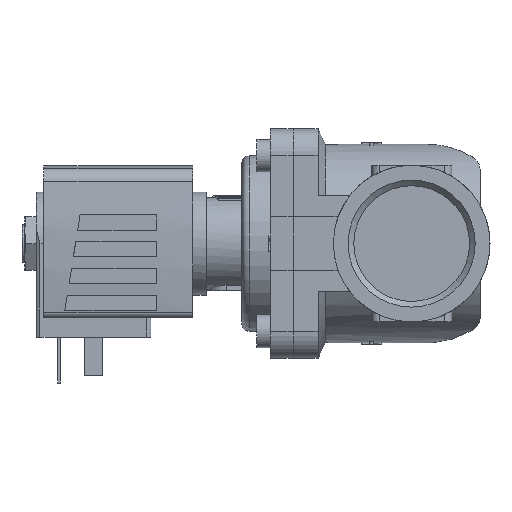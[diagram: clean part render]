
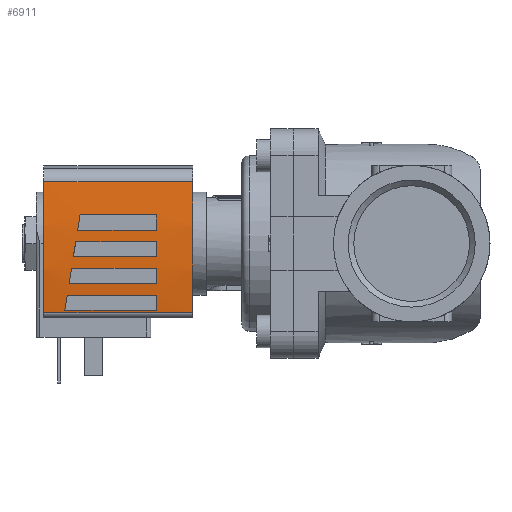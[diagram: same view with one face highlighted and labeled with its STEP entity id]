
A CAD part, left-side view. The second image highlights one B-rep face of the part: STEP entity #6911.
In plain terms, the highlighted cylindrical face has radius 130 mm (diameter 260 mm), a partial arc.
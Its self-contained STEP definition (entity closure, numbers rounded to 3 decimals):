
#92=ELLIPSE('',#7480,131.653,130.);
#93=ELLIPSE('',#7482,131.653,130.);
#94=ELLIPSE('',#7485,131.653,130.);
#95=ELLIPSE('',#7487,131.653,130.);
#247=CYLINDRICAL_SURFACE('',#7479,130.);
#636=LINE('',#10854,#1136);
#638=LINE('',#10874,#1138);
#639=LINE('',#10878,#1139);
#640=LINE('',#10879,#1140);
#641=LINE('',#10884,#1141);
#642=LINE('',#10889,#1142);
#643=LINE('',#10893,#1143);
#644=LINE('',#10897,#1144);
#645=LINE('',#10901,#1145);
#646=LINE('',#10905,#1146);
#1136=VECTOR('',#8895,1000.);
#1138=VECTOR('',#8917,1000.);
#1139=VECTOR('',#8920,1000.);
#1140=VECTOR('',#8921,1000.);
#1141=VECTOR('',#8924,1000.);
#1142=VECTOR('',#8929,1000.);
#1143=VECTOR('',#8932,1000.);
#1144=VECTOR('',#8935,1000.);
#1145=VECTOR('',#8938,1000.);
#1146=VECTOR('',#8941,1000.);
#2524=ORIENTED_EDGE('',*,*,#3563,.F.);
#2525=ORIENTED_EDGE('',*,*,#3564,.F.);
#2526=ORIENTED_EDGE('',*,*,#3565,.F.);
#2527=ORIENTED_EDGE('',*,*,#3566,.F.);
#2528=ORIENTED_EDGE('',*,*,#3567,.F.);
#2529=ORIENTED_EDGE('',*,*,#3568,.F.);
#2530=ORIENTED_EDGE('',*,*,#3569,.F.);
#2531=ORIENTED_EDGE('',*,*,#3570,.F.);
#2532=ORIENTED_EDGE('',*,*,#3571,.T.);
#2533=ORIENTED_EDGE('',*,*,#3572,.F.);
#2534=ORIENTED_EDGE('',*,*,#3557,.F.);
#2535=ORIENTED_EDGE('',*,*,#3554,.T.);
#2536=ORIENTED_EDGE('',*,*,#3573,.F.);
#2537=ORIENTED_EDGE('',*,*,#3574,.F.);
#2538=ORIENTED_EDGE('',*,*,#3575,.F.);
#2539=ORIENTED_EDGE('',*,*,#3576,.F.);
#2540=ORIENTED_EDGE('',*,*,#3577,.F.);
#2541=ORIENTED_EDGE('',*,*,#3578,.F.);
#2542=ORIENTED_EDGE('',*,*,#3579,.F.);
#2543=ORIENTED_EDGE('',*,*,#3580,.F.);
#3554=EDGE_CURVE('',#4177,#4176,#636,.T.);
#3557=EDGE_CURVE('',#4177,#4179,#4458,.T.);
#3563=EDGE_CURVE('',#4183,#4184,#92,.T.);
#3564=EDGE_CURVE('',#4185,#4183,#638,.F.);
#3565=EDGE_CURVE('',#4186,#4185,#4463,.T.);
#3566=EDGE_CURVE('',#4184,#4186,#639,.T.);
#3567=EDGE_CURVE('',#4187,#4188,#640,.T.);
#3568=EDGE_CURVE('',#4189,#4187,#93,.T.);
#3569=EDGE_CURVE('',#4190,#4189,#641,.F.);
#3570=EDGE_CURVE('',#4188,#4190,#4464,.T.);
#3571=EDGE_CURVE('',#4176,#4191,#4465,.T.);
#3572=EDGE_CURVE('',#4179,#4191,#642,.T.);
#3573=EDGE_CURVE('',#4192,#4193,#94,.T.);
#3574=EDGE_CURVE('',#4194,#4192,#643,.F.);
#3575=EDGE_CURVE('',#4195,#4194,#4466,.T.);
#3576=EDGE_CURVE('',#4193,#4195,#644,.T.);
#3577=EDGE_CURVE('',#4196,#4197,#95,.T.);
#3578=EDGE_CURVE('',#4198,#4196,#645,.F.);
#3579=EDGE_CURVE('',#4199,#4198,#4467,.T.);
#3580=EDGE_CURVE('',#4197,#4199,#646,.T.);
#4176=VERTEX_POINT('',#10853);
#4177=VERTEX_POINT('',#10855);
#4179=VERTEX_POINT('',#10861);
#4183=VERTEX_POINT('',#10872);
#4184=VERTEX_POINT('',#10873);
#4185=VERTEX_POINT('',#10875);
#4186=VERTEX_POINT('',#10877);
#4187=VERTEX_POINT('',#10880);
#4188=VERTEX_POINT('',#10881);
#4189=VERTEX_POINT('',#10883);
#4190=VERTEX_POINT('',#10885);
#4191=VERTEX_POINT('',#10888);
#4192=VERTEX_POINT('',#10891);
#4193=VERTEX_POINT('',#10892);
#4194=VERTEX_POINT('',#10894);
#4195=VERTEX_POINT('',#10896);
#4196=VERTEX_POINT('',#10899);
#4197=VERTEX_POINT('',#10900);
#4198=VERTEX_POINT('',#10902);
#4199=VERTEX_POINT('',#10904);
#4458=CIRCLE('',#7474,130.);
#4463=CIRCLE('',#7481,130.);
#4464=CIRCLE('',#7483,130.);
#4465=CIRCLE('',#7484,130.);
#4466=CIRCLE('',#7486,130.);
#4467=CIRCLE('',#7488,130.);
#4774=EDGE_LOOP('',(#2524,#2525,#2526,#2527));
#4775=EDGE_LOOP('',(#2528,#2529,#2530,#2531));
#4776=EDGE_LOOP('',(#2532,#2533,#2534,#2535));
#4777=EDGE_LOOP('',(#2536,#2537,#2538,#2539));
#4778=EDGE_LOOP('',(#2540,#2541,#2542,#2543));
#5159=FACE_BOUND('',#4774,.T.);
#5160=FACE_BOUND('',#4775,.T.);
#5161=FACE_BOUND('',#4776,.T.);
#5162=FACE_BOUND('',#4777,.T.);
#5163=FACE_BOUND('',#4778,.T.);
#6911=ADVANCED_FACE('',(#5159,#5160,#5161,#5162,#5163),#247,.T.);
#7474=AXIS2_PLACEMENT_3D('',#10860,#8902,#8903);
#7479=AXIS2_PLACEMENT_3D('',#10870,#8913,#8914);
#7480=AXIS2_PLACEMENT_3D('',#10871,#8915,#8916);
#7481=AXIS2_PLACEMENT_3D('',#10876,#8918,#8919);
#7482=AXIS2_PLACEMENT_3D('',#10882,#8922,#8923);
#7483=AXIS2_PLACEMENT_3D('',#10886,#8925,#8926);
#7484=AXIS2_PLACEMENT_3D('',#10887,#8927,#8928);
#7485=AXIS2_PLACEMENT_3D('',#10890,#8930,#8931);
#7486=AXIS2_PLACEMENT_3D('',#10895,#8933,#8934);
#7487=AXIS2_PLACEMENT_3D('',#10898,#8936,#8937);
#7488=AXIS2_PLACEMENT_3D('',#10903,#8939,#8940);
#8895=DIRECTION('',(0.,-1.,0.));
#8902=DIRECTION('',(0.,1.,0.));
#8903=DIRECTION('',(1.,0.,0.));
#8913=DIRECTION('',(0.,-1.,0.));
#8914=DIRECTION('',(0.,0.,-1.));
#8915=DIRECTION('',(-0.158,-0.987,0.));
#8916=DIRECTION('',(0.987,-0.158,0.));
#8917=DIRECTION('',(0.,-1.,0.));
#8918=DIRECTION('',(0.,1.,0.));
#8919=DIRECTION('',(0.,0.,1.));
#8920=DIRECTION('',(0.,-1.,0.));
#8921=DIRECTION('',(0.,-1.,0.));
#8922=DIRECTION('',(-0.158,-0.987,0.));
#8923=DIRECTION('',(0.987,-0.158,0.));
#8924=DIRECTION('',(0.,-1.,0.));
#8925=DIRECTION('',(0.,1.,0.));
#8926=DIRECTION('',(0.,0.,1.));
#8927=DIRECTION('',(0.,1.,0.));
#8928=DIRECTION('',(1.,0.,0.));
#8929=DIRECTION('',(0.,-1.,0.));
#8930=DIRECTION('',(-0.158,-0.987,0.));
#8931=DIRECTION('',(0.987,-0.158,0.));
#8932=DIRECTION('',(0.,-1.,0.));
#8933=DIRECTION('',(0.,1.,0.));
#8934=DIRECTION('',(0.,0.,1.));
#8935=DIRECTION('',(0.,-1.,0.));
#8936=DIRECTION('',(-0.158,-0.987,0.));
#8937=DIRECTION('',(0.987,-0.158,0.));
#8938=DIRECTION('',(0.,-1.,0.));
#8939=DIRECTION('',(0.,1.,0.));
#8940=DIRECTION('',(0.,0.,1.));
#8941=DIRECTION('',(0.,-1.,0.));
#10853=CARTESIAN_POINT('',(-18.071,-26.,14.738));
#10854=CARTESIAN_POINT('',(-18.071,13.,14.738));
#10855=CARTESIAN_POINT('',(-18.071,13.,14.738));
#10860=CARTESIAN_POINT('',(0.,13.,-114.));
#10861=CARTESIAN_POINT('',(16.195,13.,14.987));
#10870=CARTESIAN_POINT('',(0.,13.,-114.));
#10871=CARTESIAN_POINT('',(0.,4.7,-114.));
#10872=CARTESIAN_POINT('',(0.5,4.62,15.999));
#10873=CARTESIAN_POINT('',(-3.5,5.26,15.953));
#10874=CARTESIAN_POINT('',(0.5,13.,15.999));
#10875=CARTESIAN_POINT('',(0.5,-16.5,15.999));
#10876=CARTESIAN_POINT('',(0.,-16.5,-114.));
#10877=CARTESIAN_POINT('',(-3.5,-16.5,15.953));
#10878=CARTESIAN_POINT('',(-3.5,13.,15.953));
#10879=CARTESIAN_POINT('',(-17.5,13.,14.817));
#10880=CARTESIAN_POINT('',(-17.5,7.5,14.817));
#10881=CARTESIAN_POINT('',(-17.5,-16.5,14.817));
#10882=CARTESIAN_POINT('',(0.,4.7,-114.));
#10883=CARTESIAN_POINT('',(-13.5,6.86,15.297));
#10884=CARTESIAN_POINT('',(-13.5,13.,15.297));
#10885=CARTESIAN_POINT('',(-13.5,-16.5,15.297));
#10886=CARTESIAN_POINT('',(0.,-16.5,-114.));
#10887=CARTESIAN_POINT('',(0.,-26.,-114.));
#10888=CARTESIAN_POINT('',(16.195,-26.,14.987));
#10889=CARTESIAN_POINT('',(16.195,13.,14.987));
#10890=CARTESIAN_POINT('',(0.,4.7,-114.));
#10891=CARTESIAN_POINT('',(-6.5,5.74,15.837));
#10892=CARTESIAN_POINT('',(-10.5,6.38,15.575));
#10893=CARTESIAN_POINT('',(-6.5,13.,15.837));
#10894=CARTESIAN_POINT('',(-6.5,-16.5,15.837));
#10895=CARTESIAN_POINT('',(0.,-16.5,-114.));
#10896=CARTESIAN_POINT('',(-10.5,-16.5,15.575));
#10897=CARTESIAN_POINT('',(-10.5,13.,15.575));
#10898=CARTESIAN_POINT('',(0.,4.7,-114.));
#10899=CARTESIAN_POINT('',(7.5,3.5,15.783));
#10900=CARTESIAN_POINT('',(3.5,4.14,15.953));
#10901=CARTESIAN_POINT('',(7.5,13.,15.783));
#10902=CARTESIAN_POINT('',(7.5,-16.5,15.783));
#10903=CARTESIAN_POINT('',(0.,-16.5,-114.));
#10904=CARTESIAN_POINT('',(3.5,-16.5,15.953));
#10905=CARTESIAN_POINT('',(3.5,13.,15.953));
